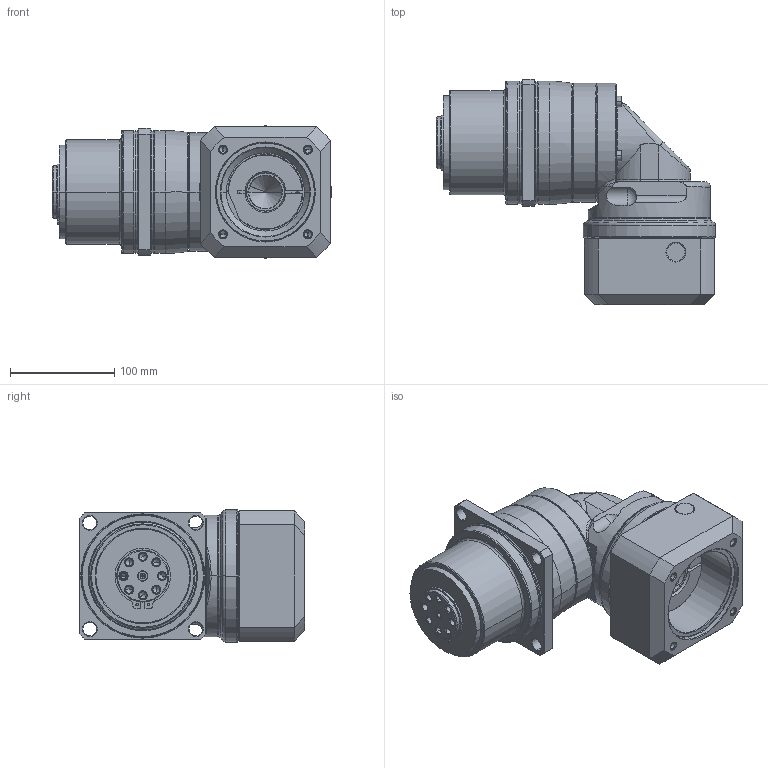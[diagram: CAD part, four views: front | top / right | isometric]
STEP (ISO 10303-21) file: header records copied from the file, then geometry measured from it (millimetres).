
FILE_DESCRIPTION((''),'2;1');
FILE_NAME('PLR120_2ST_32-P0411700101_ASM','2016-06-29T',('d00435'),(''),'PRO/ENGINEER BY PARAMETRIC TECHNOLOGY CORPORATION, 2008410','PRO/ENGINEER BY PARAMETRIC TECHNOLOGY CORPORATION, 2008410','');
FILE_SCHEMA(('CONFIG_CONTROL_DESIGN'));
Length unit declared in the file: millimetre
Products named in the file (11): P0272400001; P0366400001; 22802000029; P1356400001; P1349400001; P1017410001; P1350400301; P0411700101; P0503700010; P0713400301; PLR120_2ST_32-P0411700101_ASM
Assembly tree (10 placements, depth 2):
  PLR120_2ST_32-P0411700101_ASM
    P0272400001
    P0366400001
    22802000029
    P1356400001
    P1349400001
    P1017410001
    P1350400301
    P0411700101
    P0503700010
    P0713400301
Bounding box: 267.8 x 216.5 x 127 mm (x, y, z)
Volume: 2612990.9 mm3; surface area: 398086.7 mm2
Topology: 11 solids, 32 shells, 670 faces, 1564 edges, 931 vertices
Faces by surface type: cylinder 225, cone 196, plane 129, torus 88, bspline 30, sphere 2
Entity records: 22067 total; most frequent: CARTESIAN_POINT 6640, DIRECTION 3446, ORIENTED_EDGE 2932, EDGE_CURVE 1508, AXIS2_PLACEMENT_3D 1460, VERTEX_POINT 931, CIRCLE 789, EDGE_LOOP 767
